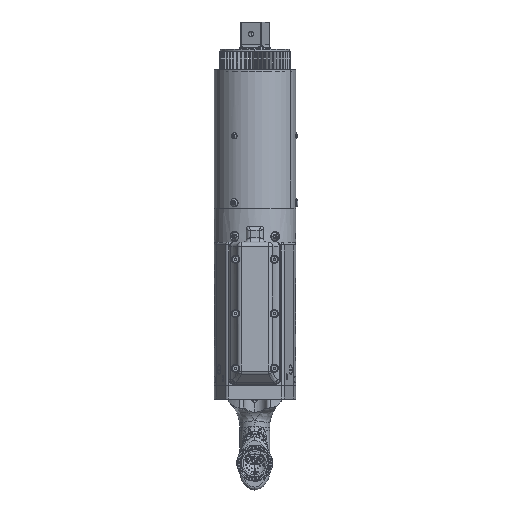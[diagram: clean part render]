
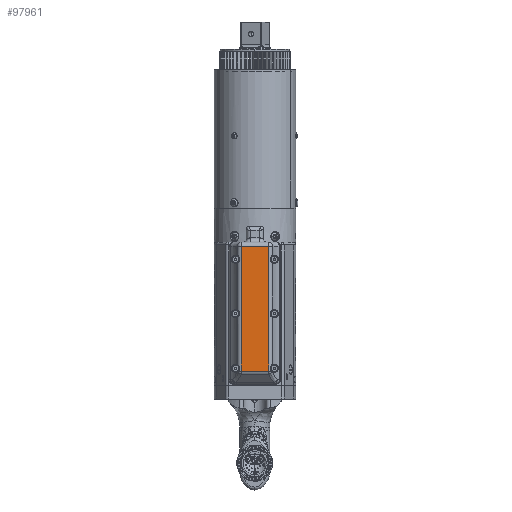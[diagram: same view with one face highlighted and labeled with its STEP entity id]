
A CAD part, front view. The second image highlights one B-rep face of the part: STEP entity #97961.
In plain terms, the highlighted planar face has unit normal (0, -1, 0).
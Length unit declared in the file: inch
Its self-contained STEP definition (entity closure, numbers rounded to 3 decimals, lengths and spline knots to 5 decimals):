
#595 = CARTESIAN_POINT ( 'NONE',  ( 0.60046, -2.55, -13.22 ) ) ;
#3254 = CARTESIAN_POINT ( 'NONE',  ( 0.60046, -2.55, -7.1575 ) ) ;
#5566 = EDGE_CURVE ( 'NONE', #82754, #93225, #88270, .T. ) ;
#7082 = PLANE ( 'NONE',  #65863 ) ;
#8218 = CARTESIAN_POINT ( 'NONE',  ( -0.60046, -2.55, -13.22 ) ) ;
#8537 = DIRECTION ( 'NONE',  ( 0., 0., 1. ) ) ;
#10422 = DIRECTION ( 'NONE',  ( 0., 1., 0. ) ) ;
#15894 = VERTEX_POINT ( 'NONE', #37343 ) ;
#16073 = DIRECTION ( 'NONE',  ( 0., 0., -1. ) ) ;
#16226 = ORIENTED_EDGE ( 'NONE', *, *, #52881, .T. ) ;
#19133 = CARTESIAN_POINT ( 'NONE',  ( -0.60046, -2.55, -12.64233 ) ) ;
#24009 = ORIENTED_EDGE ( 'NONE', *, *, #5566, .T. ) ;
#25945 = LINE ( 'NONE', #27195, #44088 ) ;
#27195 = CARTESIAN_POINT ( 'NONE',  ( 0.73077, -2.55, -7.1575 ) ) ;
#30447 = EDGE_CURVE ( 'NONE', #15894, #82754, #81859, .T. ) ;
#37343 = CARTESIAN_POINT ( 'NONE',  ( -0.60046, -2.55, -7.1575 ) ) ;
#44088 = VECTOR ( 'NONE', #58017, 39.37008 ) ;
#44565 = EDGE_LOOP ( 'NONE', ( #16226, #58510, #61220, #24009 ) ) ;
#45776 = FACE_OUTER_BOUND ( 'NONE', #44565, .T. ) ;
#45795 = VERTEX_POINT ( 'NONE', #3254 ) ;
#52881 = EDGE_CURVE ( 'NONE', #93225, #45795, #84461, .T. ) ;
#56902 = CARTESIAN_POINT ( 'NONE',  ( 0.73077, -2.55, -13.22 ) ) ;
#58017 = DIRECTION ( 'NONE',  ( -1., 0., 0. ) ) ;
#58510 = ORIENTED_EDGE ( 'NONE', *, *, #68069, .T. ) ;
#61220 = ORIENTED_EDGE ( 'NONE', *, *, #30447, .T. ) ;
#64657 = DIRECTION ( 'NONE',  ( 0., 0., -1. ) ) ;
#65863 = AXIS2_PLACEMENT_3D ( 'NONE', #56902, #10422, #64657 ) ;
#68069 = EDGE_CURVE ( 'NONE', #45795, #15894, #25945, .T. ) ;
#77665 = VECTOR ( 'NONE', #16073, 39.37008 ) ;
#81859 = LINE ( 'NONE', #8218, #77665 ) ;
#82034 = VECTOR ( 'NONE', #8537, 39.37008 ) ;
#82754 = VERTEX_POINT ( 'NONE', #19133 ) ;
#84461 = LINE ( 'NONE', #595, #82034 ) ;
#85280 = DIRECTION ( 'NONE',  ( 1., 0., 0. ) ) ;
#88116 = CARTESIAN_POINT ( 'NONE',  ( 0.73077, -2.55, -12.64233 ) ) ;
#88270 = LINE ( 'NONE', #88116, #98142 ) ;
#92794 = CARTESIAN_POINT ( 'NONE',  ( 0.60046, -2.55, -12.64233 ) ) ;
#93225 = VERTEX_POINT ( 'NONE', #92794 ) ;
#97961 = ADVANCED_FACE ( 'NONE', ( #45776 ), #7082, .F. ) ;
#98142 = VECTOR ( 'NONE', #85280, 39.37008 ) ;
